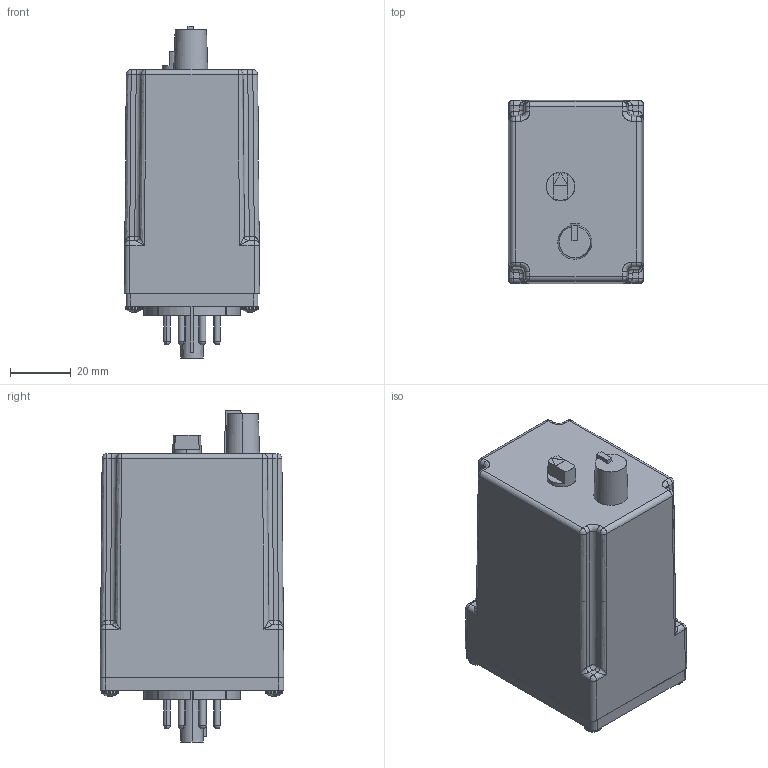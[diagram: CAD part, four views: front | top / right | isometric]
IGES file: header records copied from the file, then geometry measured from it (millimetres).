
Start section: SolidWorks IGES file using analytic representation for surfaces
Global section: file name: D:\Modeling Work\Macromatic\2019\TR-6 eCAD Package\TR-6 Package\TR-6 Single\TR-6 Single.IGS; native system: SolidWorks 2019; preprocessor: SolidWorks 2019; author: mdahl; date: 190520.192751; units: millimetre
Bounding box: 44.45 x 60.33 x 109.09 mm (x, y, z)
Surface area: 29697.2 mm2 (no closed solid volume)
Topology: 0 solids, 0 shells, 702 faces, 8632 edges, 8567 vertices
Faces by surface type: revolution 353, bspline 349
